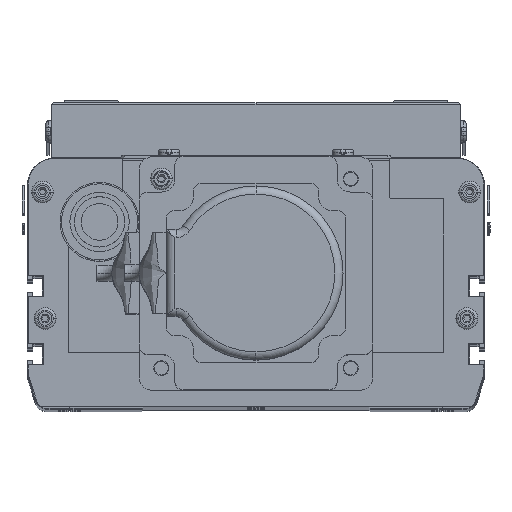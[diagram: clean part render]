
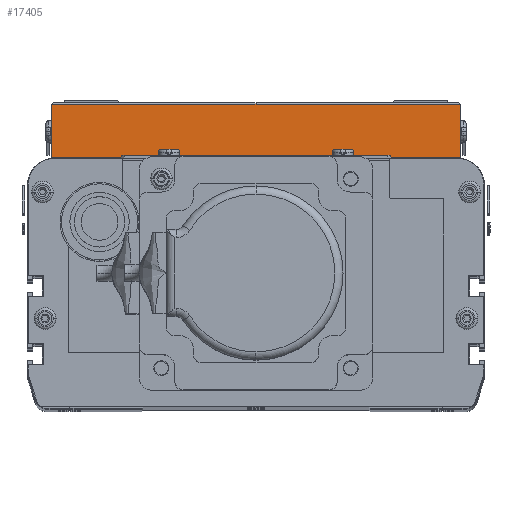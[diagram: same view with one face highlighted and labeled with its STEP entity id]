
A CAD part, top view. The second image highlights one B-rep face of the part: STEP entity #17405.
In plain terms, the highlighted planar face has unit normal (0, 0, 1) as drawn and (1, 0, 0) by its records, which use the part's own axes.
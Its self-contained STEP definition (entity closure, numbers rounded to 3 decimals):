
#1496 = CARTESIAN_POINT ( 'NONE',  ( 220., 19.5, 0. ) ) ;
#1540 = DIRECTION ( 'NONE',  ( 0., -1., 0. ) ) ;
#1541 = VECTOR ( 'NONE', #1540, 1000. ) ;
#1542 = CARTESIAN_POINT ( 'NONE',  ( 220., 20., 0. ) ) ;
#1543 = LINE ( 'NONE', #1542, #1541 ) ;
#1566 = DIRECTION ( 'NONE',  ( 0., 0., 1. ) ) ;
#1567 = VECTOR ( 'NONE', #1566, 1000. ) ;
#1568 = CARTESIAN_POINT ( 'NONE',  ( 220., 19.5, 0. ) ) ;
#1642 = CARTESIAN_POINT ( 'NONE',  ( 220., 0., -150. ) ) ;
#1737 = LINE ( 'NONE', #1568, #1567 ) ;
#1750 = CARTESIAN_POINT ( 'NONE',  ( 220., 19.5, -75. ) ) ;
#1755 = CARTESIAN_POINT ( 'NONE',  ( 220., 19.5, -150. ) ) ;
#1782 = LINE ( 'NONE', #1930, #1929 ) ;
#1823 = DIRECTION ( 'NONE',  ( 0., 0., 1. ) ) ;
#1824 = DIRECTION ( 'NONE',  ( -1., 0., 0. ) ) ;
#1826 = CARTESIAN_POINT ( 'NONE',  ( 220., 0., 0. ) ) ;
#1830 = PLANE ( 'NONE',  #1981 ) ;
#1891 = DIRECTION ( 'NONE',  ( 0., 0., 1. ) ) ;
#1892 = VECTOR ( 'NONE', #1891, 1000. ) ;
#1893 = CARTESIAN_POINT ( 'NONE',  ( 220., 19.5, 0. ) ) ;
#1894 = LINE ( 'NONE', #1893, #1892 ) ;
#1898 = DIRECTION ( 'NONE',  ( 0., 0., -1. ) ) ;
#1899 = VECTOR ( 'NONE', #1898, 1000. ) ;
#1900 = CARTESIAN_POINT ( 'NONE',  ( 220., 0., 0. ) ) ;
#1901 = LINE ( 'NONE', #1900, #1899 ) ;
#1928 = DIRECTION ( 'NONE',  ( 0., -1., 0. ) ) ;
#1929 = VECTOR ( 'NONE', #1928, 1000. ) ;
#1930 = CARTESIAN_POINT ( 'NONE',  ( 220., 20., -150. ) ) ;
#1975 = FACE_OUTER_BOUND ( 'NONE', #17445, .T. ) ;
#1976 = CARTESIAN_POINT ( 'NONE',  ( 220., 20., 0. ) ) ;
#1981 = AXIS2_PLACEMENT_3D ( 'NONE', #1976, #1824, #1823 ) ;
#17049 = EDGE_CURVE ( 'NONE', #17149, #17415, #1543, .T. ) ;
#17103 = EDGE_CURVE ( 'NONE', #17264, #17149, #1737, .T. ) ;
#17142 = VERTEX_POINT ( 'NONE', #1642 ) ;
#17149 = VERTEX_POINT ( 'NONE', #1496 ) ;
#17150 = ORIENTED_EDGE ( 'NONE', *, *, #17426, .T. ) ;
#17236 = ORIENTED_EDGE ( 'NONE', *, *, #17049, .T. ) ;
#17264 = VERTEX_POINT ( 'NONE', #1750 ) ;
#17268 = VERTEX_POINT ( 'NONE', #1755 ) ;
#17348 = EDGE_CURVE ( 'NONE', #17268, #17142, #1782, .T. ) ;
#17355 = ORIENTED_EDGE ( 'NONE', *, *, #17103, .T. ) ;
#17374 = ORIENTED_EDGE ( 'NONE', *, *, #17348, .F. ) ;
#17405 = ADVANCED_FACE ( 'NONE', ( #1975 ), #1830, .F. ) ;
#17415 = VERTEX_POINT ( 'NONE', #1826 ) ;
#17424 = EDGE_CURVE ( 'NONE', #17415, #17142, #1901, .T. ) ;
#17426 = EDGE_CURVE ( 'NONE', #17268, #17264, #1894, .T. ) ;
#17444 = ORIENTED_EDGE ( 'NONE', *, *, #17424, .T. ) ;
#17445 = EDGE_LOOP ( 'NONE', ( #17374, #17150, #17355, #17236, #17444 ) ) ;
